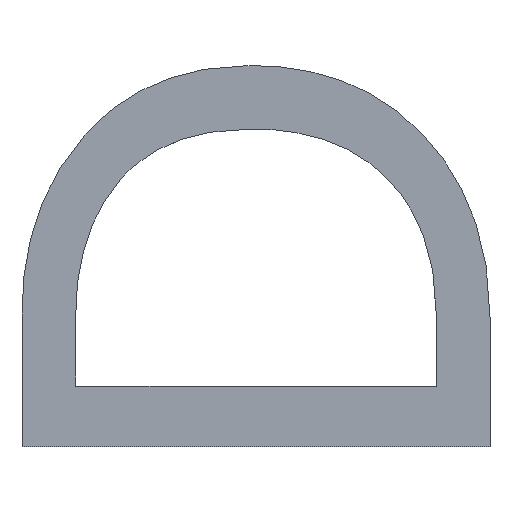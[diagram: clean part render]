
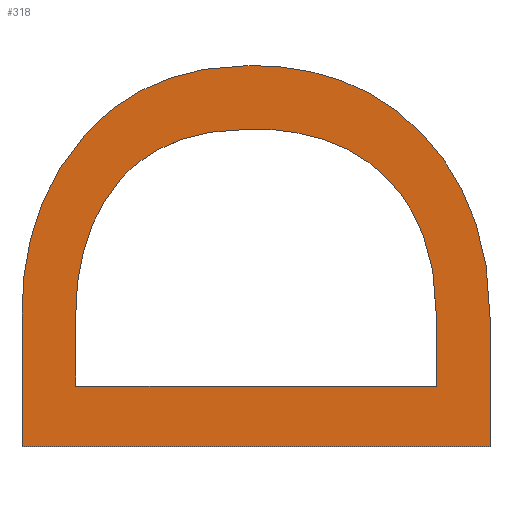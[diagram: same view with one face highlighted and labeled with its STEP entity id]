
A CAD part, top view. The second image highlights one B-rep face of the part: STEP entity #318.
In plain terms, the highlighted planar face has unit normal (0, 0, 1).
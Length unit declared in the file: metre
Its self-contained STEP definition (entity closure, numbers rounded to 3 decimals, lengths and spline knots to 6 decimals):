
#19=PLANE('',#435);
#27=LINE('',#565,#53);
#30=LINE('',#571,#56);
#32=LINE('',#574,#58);
#35=LINE('',#581,#61);
#38=LINE('',#587,#64);
#45=LINE('',#668,#71);
#53=VECTOR('',#447,1.);
#56=VECTOR('',#452,1.);
#58=VECTOR('',#456,1.);
#61=VECTOR('',#461,1.);
#64=VECTOR('',#466,1.);
#71=VECTOR('',#475,1.);
#142=ORIENTED_EDGE('',*,*,#174,.F.);
#143=ORIENTED_EDGE('',*,*,#176,.F.);
#144=ORIENTED_EDGE('',*,*,#158,.F.);
#145=ORIENTED_EDGE('',*,*,#162,.F.);
#146=ORIENTED_EDGE('',*,*,#165,.F.);
#147=ORIENTED_EDGE('',*,*,#168,.F.);
#148=ORIENTED_EDGE('',*,*,#171,.F.);
#149=ORIENTED_EDGE('',*,*,#197,.T.);
#150=ORIENTED_EDGE('',*,*,#194,.T.);
#151=ORIENTED_EDGE('',*,*,#191,.T.);
#152=ORIENTED_EDGE('',*,*,#188,.T.);
#153=ORIENTED_EDGE('',*,*,#185,.T.);
#154=ORIENTED_EDGE('',*,*,#182,.T.);
#155=ORIENTED_EDGE('',*,*,#179,.T.);
#158=EDGE_CURVE('',#200,#201,#227,.T.);
#162=EDGE_CURVE('',#203,#200,#229,.T.);
#165=EDGE_CURVE('',#205,#203,#231,.T.);
#168=EDGE_CURVE('',#207,#205,#233,.T.);
#171=EDGE_CURVE('',#209,#207,#27,.T.);
#174=EDGE_CURVE('',#211,#209,#30,.T.);
#176=EDGE_CURVE('',#201,#211,#32,.T.);
#179=EDGE_CURVE('',#215,#214,#35,.T.);
#182=EDGE_CURVE('',#217,#215,#38,.T.);
#185=EDGE_CURVE('',#219,#217,#235,.T.);
#188=EDGE_CURVE('',#221,#219,#237,.T.);
#191=EDGE_CURVE('',#223,#221,#239,.T.);
#194=EDGE_CURVE('',#225,#223,#241,.T.);
#197=EDGE_CURVE('',#214,#225,#45,.T.);
#200=VERTEX_POINT('',#496);
#201=VERTEX_POINT('',#501);
#203=VERTEX_POINT('',#517);
#205=VERTEX_POINT('',#536);
#207=VERTEX_POINT('',#555);
#209=VERTEX_POINT('',#564);
#211=VERTEX_POINT('',#570);
#214=VERTEX_POINT('',#580);
#215=VERTEX_POINT('',#582);
#217=VERTEX_POINT('',#588);
#219=VERTEX_POINT('',#607);
#221=VERTEX_POINT('',#626);
#223=VERTEX_POINT('',#645);
#225=VERTEX_POINT('',#664);
#227=B_SPLINE_CURVE_WITH_KNOTS('',3,(#497,#498,#499,#500),.UNSPECIFIED.,
 .F.,.F.,(4,4),(5.,6.),.UNSPECIFIED.);
#229=B_SPLINE_CURVE_WITH_KNOTS('',3,(#518,#519,#520,#521),.UNSPECIFIED.,
 .F.,.F.,(4,4),(4.,5.),.UNSPECIFIED.);
#231=B_SPLINE_CURVE_WITH_KNOTS('',3,(#537,#538,#539,#540),.UNSPECIFIED.,
 .F.,.F.,(4,4),(3.,4.),.UNSPECIFIED.);
#233=B_SPLINE_CURVE_WITH_KNOTS('',3,(#556,#557,#558,#559),.UNSPECIFIED.,
 .F.,.F.,(4,4),(2.,3.),.UNSPECIFIED.);
#235=B_SPLINE_CURVE_WITH_KNOTS('',3,(#603,#604,#605,#606),.UNSPECIFIED.,
 .F.,.F.,(4,4),(2.,3.),.UNSPECIFIED.);
#237=B_SPLINE_CURVE_WITH_KNOTS('',3,(#622,#623,#624,#625),.UNSPECIFIED.,
 .F.,.F.,(4,4),(3.,4.),.UNSPECIFIED.);
#239=B_SPLINE_CURVE_WITH_KNOTS('',3,(#641,#642,#643,#644),.UNSPECIFIED.,
 .F.,.F.,(4,4),(4.,5.),.UNSPECIFIED.);
#241=B_SPLINE_CURVE_WITH_KNOTS('',3,(#660,#661,#662,#663),.UNSPECIFIED.,
 .F.,.F.,(4,4),(5.,6.),.UNSPECIFIED.);
#258=EDGE_LOOP('',(#142,#143,#144,#145,#146,#147,#148));
#259=EDGE_LOOP('',(#149,#150,#151,#152,#153,#154,#155));
#276=FACE_BOUND('',#258,.T.);
#277=FACE_BOUND('',#259,.T.);
#318=ADVANCED_FACE('',(#276,#277),#19,.T.);
#435=AXIS2_PLACEMENT_3D('',#670,#478,#479);
#447=DIRECTION('',(0.,1.,0.));
#452=DIRECTION('',(1.,0.,0.));
#456=DIRECTION('',(0.,-1.,0.));
#461=DIRECTION('',(1.,0.,0.));
#466=DIRECTION('',(0.,-1.,0.));
#475=DIRECTION('',(0.,1.,0.));
#478=DIRECTION('',(0.,0.,1.));
#479=DIRECTION('',(-1.,0.,0.));
#496=CARTESIAN_POINT('',(-0.070726,-0.02289,0.010548));
#497=CARTESIAN_POINT('',(-0.070726,-0.02289,0.010548));
#498=CARTESIAN_POINT('',(-0.07073,-0.022895,0.010548));
#499=CARTESIAN_POINT('',(-0.070732,-0.022901,0.010548));
#500=CARTESIAN_POINT('',(-0.070732,-0.022908,0.010548));
#501=CARTESIAN_POINT('',(-0.070732,-0.022908,0.010548));
#517=CARTESIAN_POINT('',(-0.070709,-0.022884,0.010548));
#518=CARTESIAN_POINT('',(-0.070709,-0.022884,0.010548));
#519=CARTESIAN_POINT('',(-0.070716,-0.022884,0.010548));
#520=CARTESIAN_POINT('',(-0.070722,-0.022886,0.010548));
#521=CARTESIAN_POINT('',(-0.070726,-0.02289,0.010548));
#536=CARTESIAN_POINT('',(-0.070691,-0.02289,0.010548));
#537=CARTESIAN_POINT('',(-0.070691,-0.02289,0.010548));
#538=CARTESIAN_POINT('',(-0.070695,-0.022886,0.010548));
#539=CARTESIAN_POINT('',(-0.070701,-0.022884,0.010548));
#540=CARTESIAN_POINT('',(-0.070709,-0.022884,0.010548));
#555=CARTESIAN_POINT('',(-0.070685,-0.022908,0.010548));
#556=CARTESIAN_POINT('',(-0.070685,-0.022908,0.010548));
#557=CARTESIAN_POINT('',(-0.070685,-0.0229,0.010548));
#558=CARTESIAN_POINT('',(-0.070687,-0.022894,0.010548));
#559=CARTESIAN_POINT('',(-0.070691,-0.02289,0.010548));
#564=CARTESIAN_POINT('',(-0.070685,-0.022917,0.010548));
#565=CARTESIAN_POINT('',(-0.070685,-0.022917,0.010548));
#570=CARTESIAN_POINT('',(-0.070732,-0.022917,0.010548));
#571=CARTESIAN_POINT('',(-0.070732,-0.022917,0.010548));
#574=CARTESIAN_POINT('',(-0.070732,-0.022908,0.010548));
#580=CARTESIAN_POINT('',(-0.070678,-0.022925,0.010548));
#581=CARTESIAN_POINT('',(-0.070678,-0.022925,0.010548));
#582=CARTESIAN_POINT('',(-0.070739,-0.022925,0.010548));
#587=CARTESIAN_POINT('',(-0.070739,-0.022925,0.010548));
#588=CARTESIAN_POINT('',(-0.070739,-0.022908,0.010548));
#603=CARTESIAN_POINT('',(-0.070731,-0.022885,0.010548));
#604=CARTESIAN_POINT('',(-0.070736,-0.022891,0.010548));
#605=CARTESIAN_POINT('',(-0.070739,-0.022898,0.010548));
#606=CARTESIAN_POINT('',(-0.070739,-0.022908,0.010548));
#607=CARTESIAN_POINT('',(-0.070731,-0.022885,0.010548));
#622=CARTESIAN_POINT('',(-0.070709,-0.022875,0.010548));
#623=CARTESIAN_POINT('',(-0.070718,-0.022875,0.010548));
#624=CARTESIAN_POINT('',(-0.070725,-0.022878,0.010548));
#625=CARTESIAN_POINT('',(-0.070731,-0.022885,0.010548));
#626=CARTESIAN_POINT('',(-0.070709,-0.022875,0.010548));
#641=CARTESIAN_POINT('',(-0.070686,-0.022885,0.010548));
#642=CARTESIAN_POINT('',(-0.070692,-0.022878,0.010548));
#643=CARTESIAN_POINT('',(-0.0707,-0.022875,0.010548));
#644=CARTESIAN_POINT('',(-0.070709,-0.022875,0.010548));
#645=CARTESIAN_POINT('',(-0.070686,-0.022885,0.010548));
#660=CARTESIAN_POINT('',(-0.070678,-0.022908,0.010548));
#661=CARTESIAN_POINT('',(-0.070678,-0.022899,0.010548));
#662=CARTESIAN_POINT('',(-0.070681,-0.022891,0.010548));
#663=CARTESIAN_POINT('',(-0.070686,-0.022885,0.010548));
#664=CARTESIAN_POINT('',(-0.070678,-0.022908,0.010548));
#668=CARTESIAN_POINT('',(-0.070678,-0.022908,0.010548));
#670=CARTESIAN_POINT('',(-0.070737,-0.022895,0.010548));
